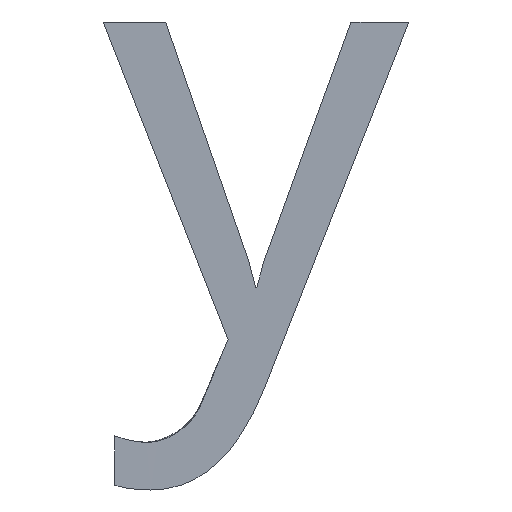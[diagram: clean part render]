
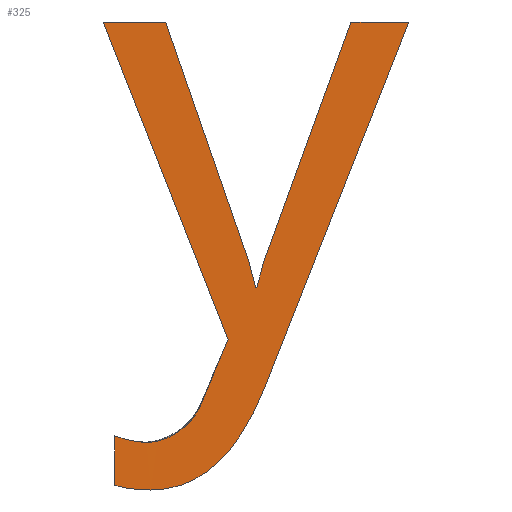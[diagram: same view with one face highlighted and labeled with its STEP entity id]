
A CAD part, front view. The second image highlights one B-rep face of the part: STEP entity #325.
In plain terms, the highlighted planar face has unit normal (0, -1, 0).
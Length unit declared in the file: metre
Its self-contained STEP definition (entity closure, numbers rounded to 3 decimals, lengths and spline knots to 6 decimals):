
#19=CIRCLE('',#461,0.000029);
#20=CIRCLE('',#462,0.000035);
#21=CIRCLE('',#463,0.000049);
#23=B_SPLINE_CURVE_WITH_KNOTS('',3,(#620,#621,#622,#623),.UNSPECIFIED.,
 .F.,.F.,(4,4),(1.,2.),.UNSPECIFIED.);
#43=ORIENTED_EDGE('',*,*,#133,.T.);
#44=ORIENTED_EDGE('',*,*,#134,.T.);
#45=ORIENTED_EDGE('',*,*,#135,.T.);
#46=ORIENTED_EDGE('',*,*,#136,.T.);
#47=ORIENTED_EDGE('',*,*,#137,.T.);
#48=ORIENTED_EDGE('',*,*,#138,.T.);
#49=ORIENTED_EDGE('',*,*,#139,.T.);
#50=ORIENTED_EDGE('',*,*,#140,.T.);
#51=ORIENTED_EDGE('',*,*,#141,.T.);
#52=ORIENTED_EDGE('',*,*,#142,.T.);
#53=ORIENTED_EDGE('',*,*,#143,.T.);
#54=ORIENTED_EDGE('',*,*,#144,.T.);
#55=ORIENTED_EDGE('',*,*,#145,.T.);
#56=ORIENTED_EDGE('',*,*,#146,.T.);
#57=ORIENTED_EDGE('',*,*,#147,.T.);
#133=EDGE_CURVE('',#178,#179,#204,.T.);
#134=EDGE_CURVE('',#179,#180,#205,.T.);
#135=EDGE_CURVE('',#180,#181,#206,.T.);
#136=EDGE_CURVE('',#181,#182,#207,.T.);
#137=EDGE_CURVE('',#182,#183,#208,.T.);
#138=EDGE_CURVE('',#183,#184,#209,.T.);
#139=EDGE_CURVE('',#184,#185,#210,.T.);
#140=EDGE_CURVE('',#185,#186,#211,.T.);
#141=EDGE_CURVE('',#186,#187,#212,.T.);
#142=EDGE_CURVE('',#187,#188,#19,.F.);
#143=EDGE_CURVE('',#188,#189,#20,.T.);
#144=EDGE_CURVE('',#189,#190,#213,.T.);
#145=EDGE_CURVE('',#190,#191,#21,.T.);
#146=EDGE_CURVE('',#191,#192,#23,.T.);
#147=EDGE_CURVE('',#192,#178,#214,.T.);
#178=VERTEX_POINT('',#594);
#179=VERTEX_POINT('',#595);
#180=VERTEX_POINT('',#597);
#181=VERTEX_POINT('',#599);
#182=VERTEX_POINT('',#601);
#183=VERTEX_POINT('',#603);
#184=VERTEX_POINT('',#605);
#185=VERTEX_POINT('',#607);
#186=VERTEX_POINT('',#609);
#187=VERTEX_POINT('',#611);
#188=VERTEX_POINT('',#613);
#189=VERTEX_POINT('',#615);
#190=VERTEX_POINT('',#617);
#191=VERTEX_POINT('',#619);
#192=VERTEX_POINT('',#624);
#204=LINE('',#593,#237);
#205=LINE('',#596,#238);
#206=LINE('',#598,#239);
#207=LINE('',#600,#240);
#208=LINE('',#602,#241);
#209=LINE('',#604,#242);
#210=LINE('',#606,#243);
#211=LINE('',#608,#244);
#212=LINE('',#610,#245);
#213=LINE('',#616,#246);
#214=LINE('',#625,#247);
#237=VECTOR('',#501,1.);
#238=VECTOR('',#502,1.);
#239=VECTOR('',#503,1.);
#240=VECTOR('',#504,1.);
#241=VECTOR('',#505,1.);
#242=VECTOR('',#506,1.);
#243=VECTOR('',#507,1.);
#244=VECTOR('',#508,1.);
#245=VECTOR('',#509,1.);
#246=VECTOR('',#514,1.);
#247=VECTOR('',#517,1.);
#260=EDGE_LOOP('',(#43,#44,#45,#46,#47,#48,#49,#50,#51,#52,#53,#54,#55,
#56,#57));
#277=FACE_BOUND('',#260,.T.);
#294=PLANE('',#460);
#325=ADVANCED_FACE('',(#277),#294,.T.);
#460=AXIS2_PLACEMENT_3D('',#592,#499,#500);
#461=AXIS2_PLACEMENT_3D('',#612,#510,#511);
#462=AXIS2_PLACEMENT_3D('',#614,#512,#513);
#463=AXIS2_PLACEMENT_3D('',#618,#515,#516);
#499=DIRECTION('',(0.,-1.,0.));
#500=DIRECTION('',(0.,0.,1.));
#501=DIRECTION('',(-1.,0.,0.));
#502=DIRECTION('',(-0.341,0.,-0.94));
#503=DIRECTION('',(-0.256,0.,-0.967));
#504=DIRECTION('',(-1.,0.,0.));
#505=DIRECTION('',(-0.252,0.,0.968));
#506=DIRECTION('',(-0.328,0.,0.945));
#507=DIRECTION('',(-1.,0.,0.));
#508=DIRECTION('',(0.366,0.,-0.931));
#509=DIRECTION('',(-0.39,0.,-0.921));
#510=DIRECTION('',(0.,-1.,0.));
#511=DIRECTION('',(0.,0.,-1.));
#512=DIRECTION('',(0.,1.,0.));
#513=DIRECTION('',(0.,0.,1.));
#514=DIRECTION('',(0.,0.,-1.));
#515=DIRECTION('',(0.,-1.,0.));
#516=DIRECTION('',(0.,0.,-1.));
#517=DIRECTION('',(0.367,0.,0.93));
#592=CARTESIAN_POINT('',(-0.144831,-0.023259,0.012085));
#593=CARTESIAN_POINT('',(-0.144771,-0.023259,0.012279));
#594=CARTESIAN_POINT('',(-0.144746,-0.023259,0.012279));
#595=CARTESIAN_POINT('',(-0.144771,-0.023259,0.012279));
#596=CARTESIAN_POINT('',(-0.144809,-0.023259,0.012174));
#597=CARTESIAN_POINT('',(-0.14481,-0.023259,0.012174));
#598=CARTESIAN_POINT('',(-0.144811,-0.023259,0.012168));
#599=CARTESIAN_POINT('',(-0.144813,-0.023259,0.012163));
#600=CARTESIAN_POINT('',(-0.144813,-0.023259,0.012163));
#601=CARTESIAN_POINT('',(-0.144813,-0.023259,0.012163));
#602=CARTESIAN_POINT('',(-0.144816,-0.023259,0.012174));
#603=CARTESIAN_POINT('',(-0.144816,-0.023259,0.012174));
#604=CARTESIAN_POINT('',(-0.144852,-0.023259,0.012279));
#605=CARTESIAN_POINT('',(-0.144852,-0.023259,0.012279));
#606=CARTESIAN_POINT('',(-0.14488,-0.023259,0.012279));
#607=CARTESIAN_POINT('',(-0.14488,-0.023259,0.012279));
#608=CARTESIAN_POINT('',(-0.144825,-0.023259,0.01214));
#609=CARTESIAN_POINT('',(-0.144825,-0.023259,0.01214));
#610=CARTESIAN_POINT('',(-0.144836,-0.023259,0.012115));
#611=CARTESIAN_POINT('',(-0.144836,-0.023259,0.012115));
#612=CARTESIAN_POINT('',(-0.144863,-0.023259,0.012124));
#613=CARTESIAN_POINT('',(-0.144861,-0.023259,0.012095));
#614=CARTESIAN_POINT('',(-0.144861,-0.023259,0.01213));
#615=CARTESIAN_POINT('',(-0.144875,-0.023259,0.012098));
#616=CARTESIAN_POINT('',(-0.144875,-0.023259,0.012076));
#617=CARTESIAN_POINT('',(-0.144875,-0.023259,0.012076));
#618=CARTESIAN_POINT('',(-0.144861,-0.023259,0.012123));
#619=CARTESIAN_POINT('',(-0.144859,-0.023259,0.012074));
#620=CARTESIAN_POINT('',(-0.144859,-0.023259,0.012074));
#621=CARTESIAN_POINT('',(-0.144838,-0.023259,0.012074));
#622=CARTESIAN_POINT('',(-0.144821,-0.023259,0.012089));
#623=CARTESIAN_POINT('',(-0.144809,-0.023259,0.012119));
#624=CARTESIAN_POINT('',(-0.144809,-0.023259,0.012119));
#625=CARTESIAN_POINT('',(-0.144746,-0.023259,0.012279));
